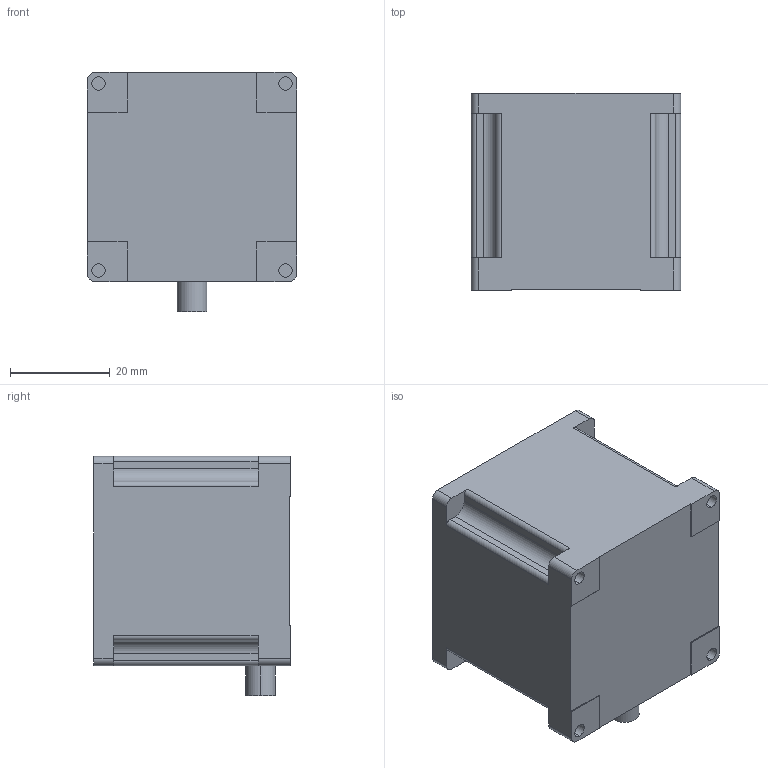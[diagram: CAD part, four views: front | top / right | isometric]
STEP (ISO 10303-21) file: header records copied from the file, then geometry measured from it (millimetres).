
FILE_DESCRIPTION (( 'STEP AP203' ), '1' );
FILE_NAME ('24038喜渡芞ぜ嘛-24.03.27.STEP', '2024-03-27T06:22:51', ( '' ), ( '' ), 'SwSTEP 2.0', 'SolidWorks 2016', '' );
FILE_SCHEMA (( 'CONFIG_CONTROL_DESIGN' ));
Length unit declared in the file: millimetre
Products named in the file (1): 24038喜渡芞ぜ嘛-24.03.27
Bounding box: 42 x 39.5 x 48 mm (x, y, z)
Volume: 66547.6 mm3; surface area: 10463.5 mm2
Topology: 1 solids, 1 shells, 81 faces, 226 edges, 144 vertices
Faces by surface type: cylinder 38, plane 35, cone 8
Entity records: 2649 total; most frequent: DIRECTION 458, CARTESIAN_POINT 444, ORIENTED_EDGE 436, EDGE_CURVE 218, AXIS2_PLACEMENT_3D 158, VERTEX_POINT 144, LINE 142, VECTOR 142
